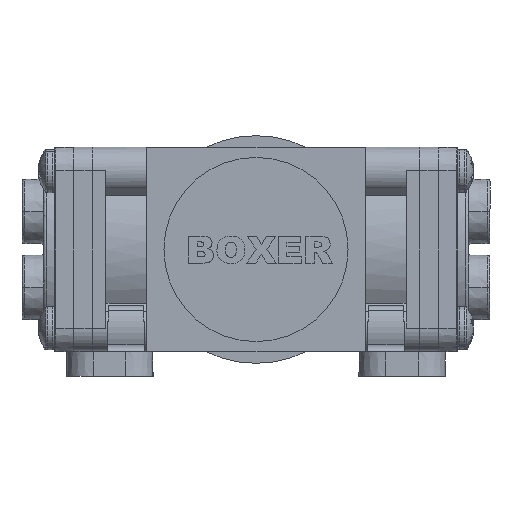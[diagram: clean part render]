
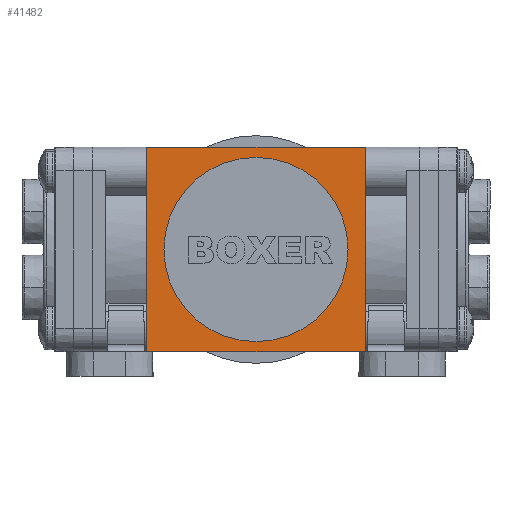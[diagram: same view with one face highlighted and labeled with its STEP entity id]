
A CAD part, front view. The second image highlights one B-rep face of the part: STEP entity #41482.
In plain terms, the highlighted planar face has unit normal (0, -1, 0).
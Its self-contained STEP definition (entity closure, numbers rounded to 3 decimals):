
#927 = LINE ( 'NONE', #52973, #10725 ) ;
#1224 = VECTOR ( 'NONE', #50323, 1000. ) ;
#1638 = VECTOR ( 'NONE', #43121, 1000. ) ;
#2532 = DIRECTION ( 'NONE',  ( 0., 0., -1. ) ) ;
#2629 = ORIENTED_EDGE ( 'NONE', *, *, #41292, .T. ) ;
#2971 = LINE ( 'NONE', #34936, #1638 ) ;
#3915 = CARTESIAN_POINT ( 'NONE',  ( -20.2, -77.53, 18.9 ) ) ;
#5551 = DIRECTION ( 'NONE',  ( 1., 0., 0. ) ) ;
#8758 = CARTESIAN_POINT ( 'NONE',  ( 20.2, -77.53, 18.9 ) ) ;
#9082 = ORIENTED_EDGE ( 'NONE', *, *, #25381, .T. ) ;
#9249 = VECTOR ( 'NONE', #5551, 1000. ) ;
#10064 = DIRECTION ( 'NONE',  ( 0., -1., 0. ) ) ;
#10274 = DIRECTION ( 'NONE',  ( 0., -1., 0. ) ) ;
#10725 = VECTOR ( 'NONE', #28104, 1000. ) ;
#13229 = EDGE_CURVE ( 'NONE', #26721, #34774, #19045, .T. ) ;
#13638 = CARTESIAN_POINT ( 'NONE',  ( 20.2, -77.53, 18.9 ) ) ;
#13650 = LINE ( 'NONE', #8758, #1224 ) ;
#15208 = VERTEX_POINT ( 'NONE', #3915 ) ;
#15605 = FACE_OUTER_BOUND ( 'NONE', #30445, .T. ) ;
#16809 = VERTEX_POINT ( 'NONE', #19164 ) ;
#17567 = ORIENTED_EDGE ( 'NONE', *, *, #23855, .F. ) ;
#19045 = CIRCLE ( 'NONE', #49222, 17. ) ;
#19164 = CARTESIAN_POINT ( 'NONE',  ( 20.2, -77.53, -18.9 ) ) ;
#23089 = DIRECTION ( 'NONE',  ( 0., -1., 0. ) ) ;
#23575 = EDGE_CURVE ( 'NONE', #15208, #34956, #927, .T. ) ;
#23855 = EDGE_CURVE ( 'NONE', #34774, #26721, #44510, .T. ) ;
#25381 = EDGE_CURVE ( 'NONE', #34956, #16809, #31373, .T. ) ;
#26434 = CARTESIAN_POINT ( 'NONE',  ( -20.2, -77.53, -18.9 ) ) ;
#26721 = VERTEX_POINT ( 'NONE', #32483 ) ;
#27463 = PLANE ( 'NONE',  #47731 ) ;
#28104 = DIRECTION ( 'NONE',  ( 0., 0., -1. ) ) ;
#29216 = ORIENTED_EDGE ( 'NONE', *, *, #35924, .T. ) ;
#30445 = EDGE_LOOP ( 'NONE', ( #2629, #29216, #52260, #9082 ) ) ;
#31373 = LINE ( 'NONE', #26434, #9249 ) ;
#31875 = AXIS2_PLACEMENT_3D ( 'NONE', #35150, #10274, #39369 ) ;
#32483 = CARTESIAN_POINT ( 'NONE',  ( 0., -77.53, 17. ) ) ;
#34774 = VERTEX_POINT ( 'NONE', #48115 ) ;
#34936 = CARTESIAN_POINT ( 'NONE',  ( -20.2, -77.53, 18.9 ) ) ;
#34956 = VERTEX_POINT ( 'NONE', #45392 ) ;
#34961 = CARTESIAN_POINT ( 'NONE',  ( 0., -77.53, 0. ) ) ;
#35150 = CARTESIAN_POINT ( 'NONE',  ( 0., -77.53, 0. ) ) ;
#35924 = EDGE_CURVE ( 'NONE', #36062, #15208, #2971, .T. ) ;
#36062 = VERTEX_POINT ( 'NONE', #13638 ) ;
#36387 = FACE_BOUND ( 'NONE', #48368, .T. ) ;
#38356 = ORIENTED_EDGE ( 'NONE', *, *, #13229, .F. ) ;
#39166 = DIRECTION ( 'NONE',  ( 0., 0., 1. ) ) ;
#39369 = DIRECTION ( 'NONE',  ( 0., 0., 1. ) ) ;
#41292 = EDGE_CURVE ( 'NONE', #16809, #36062, #13650, .T. ) ;
#41482 = ADVANCED_FACE ( 'NONE', ( #36387, #15605 ), #27463, .T. ) ;
#43121 = DIRECTION ( 'NONE',  ( -1., 0., 0. ) ) ;
#44510 = CIRCLE ( 'NONE', #31875, 17. ) ;
#45392 = CARTESIAN_POINT ( 'NONE',  ( -20.2, -77.53, -18.9 ) ) ;
#47731 = AXIS2_PLACEMENT_3D ( 'NONE', #48159, #23089, #2532 ) ;
#48115 = CARTESIAN_POINT ( 'NONE',  ( 0., -77.53, -17. ) ) ;
#48159 = CARTESIAN_POINT ( 'NONE',  ( -20.2, -77.53, 18.9 ) ) ;
#48368 = EDGE_LOOP ( 'NONE', ( #38356, #17567 ) ) ;
#49222 = AXIS2_PLACEMENT_3D ( 'NONE', #34961, #10064, #39166 ) ;
#50323 = DIRECTION ( 'NONE',  ( 0., 0., 1. ) ) ;
#52260 = ORIENTED_EDGE ( 'NONE', *, *, #23575, .T. ) ;
#52973 = CARTESIAN_POINT ( 'NONE',  ( -20.2, -77.53, 18.9 ) ) ;
